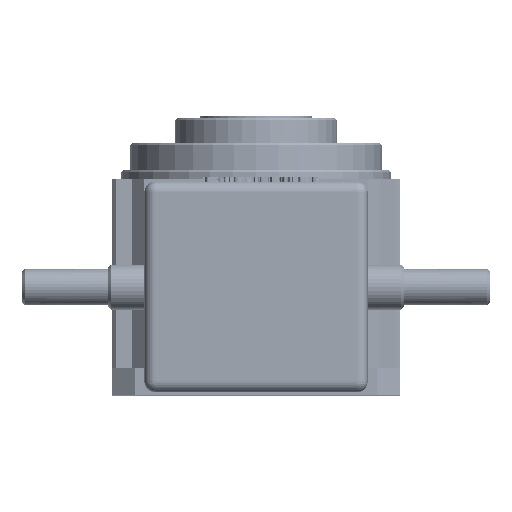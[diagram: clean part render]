
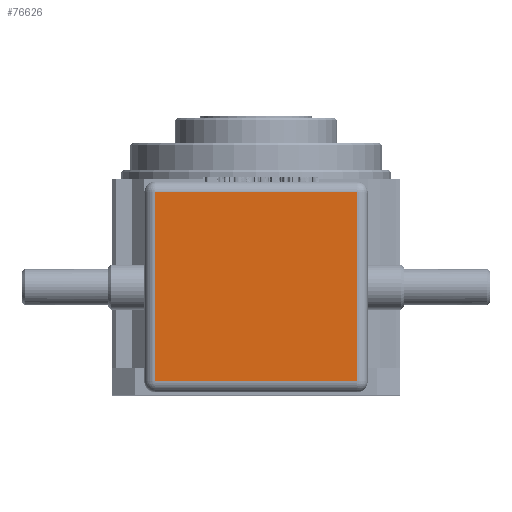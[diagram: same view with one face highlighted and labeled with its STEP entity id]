
A CAD part, top view. The second image highlights one B-rep face of the part: STEP entity #76626.
In plain terms, the highlighted planar face has unit normal (0, 0, 1).
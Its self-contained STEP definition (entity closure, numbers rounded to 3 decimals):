
#201 = LINE ( 'NONE', #104093, #118697 ) ;
#1552 = DIRECTION ( 'NONE',  ( 0., 0., -1. ) ) ;
#6718 = VERTEX_POINT ( 'NONE', #111643 ) ;
#10116 = VERTEX_POINT ( 'NONE', #19434 ) ;
#18568 = ORIENTED_EDGE ( 'NONE', *, *, #121043, .T. ) ;
#19434 = CARTESIAN_POINT ( 'NONE',  ( -56., 112.5, 138. ) ) ;
#24221 = EDGE_LOOP ( 'NONE', ( #18568, #40768, #93863, #110247 ) ) ;
#24915 = VECTOR ( 'NONE', #99006, 1000. ) ;
#27255 = VECTOR ( 'NONE', #102631, 1000. ) ;
#28003 = LINE ( 'NONE', #39544, #99601 ) ;
#30512 = DIRECTION ( 'NONE',  ( 1., 0., 0. ) ) ;
#32134 = CARTESIAN_POINT ( 'NONE',  ( 56., 112.5, 138. ) ) ;
#33518 = EDGE_CURVE ( 'NONE', #6718, #100806, #79900, .T. ) ;
#37444 = VERTEX_POINT ( 'NONE', #52586 ) ;
#38180 = EDGE_CURVE ( 'NONE', #100806, #10116, #201, .T. ) ;
#39544 = CARTESIAN_POINT ( 'NONE',  ( 56., 7.5, 138. ) ) ;
#40768 = ORIENTED_EDGE ( 'NONE', *, *, #33518, .T. ) ;
#47990 = CARTESIAN_POINT ( 'NONE',  ( 0., 0., 138. ) ) ;
#52576 = CARTESIAN_POINT ( 'NONE',  ( -56., 0., 138. ) ) ;
#52586 = CARTESIAN_POINT ( 'NONE',  ( -56., 7.5, 138. ) ) ;
#57686 = DIRECTION ( 'NONE',  ( -1., 0., 0. ) ) ;
#60440 = FACE_OUTER_BOUND ( 'NONE', #24221, .T. ) ;
#67215 = DIRECTION ( 'NONE',  ( -1., 0., 0. ) ) ;
#74698 = LINE ( 'NONE', #52576, #24915 ) ;
#76626 = ADVANCED_FACE ( 'NONE', ( #60440 ), #104249, .F. ) ;
#79900 = LINE ( 'NONE', #96266, #27255 ) ;
#84399 = AXIS2_PLACEMENT_3D ( 'NONE', #47990, #1552, #67215 ) ;
#92687 = EDGE_CURVE ( 'NONE', #10116, #37444, #74698, .T. ) ;
#93863 = ORIENTED_EDGE ( 'NONE', *, *, #38180, .T. ) ;
#96266 = CARTESIAN_POINT ( 'NONE',  ( 56., 0., 138. ) ) ;
#99006 = DIRECTION ( 'NONE',  ( 0., -1., 0. ) ) ;
#99601 = VECTOR ( 'NONE', #30512, 1000. ) ;
#100806 = VERTEX_POINT ( 'NONE', #32134 ) ;
#102631 = DIRECTION ( 'NONE',  ( 0., 1., 0. ) ) ;
#104093 = CARTESIAN_POINT ( 'NONE',  ( -56., 112.5, 138. ) ) ;
#104249 = PLANE ( 'NONE',  #84399 ) ;
#110247 = ORIENTED_EDGE ( 'NONE', *, *, #92687, .T. ) ;
#111643 = CARTESIAN_POINT ( 'NONE',  ( 56., 7.5, 138. ) ) ;
#118697 = VECTOR ( 'NONE', #57686, 1000. ) ;
#121043 = EDGE_CURVE ( 'NONE', #37444, #6718, #28003, .T. ) ;
